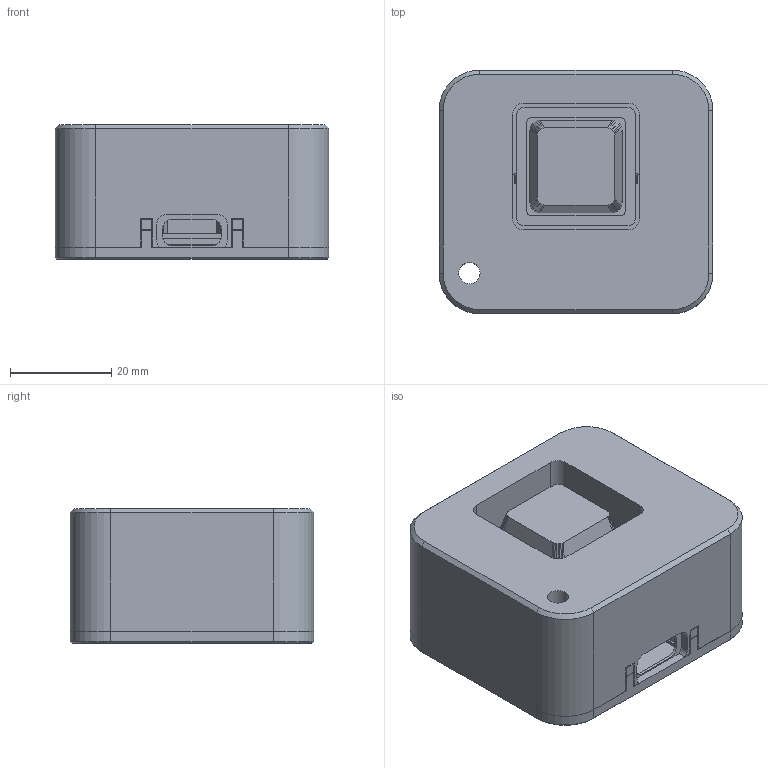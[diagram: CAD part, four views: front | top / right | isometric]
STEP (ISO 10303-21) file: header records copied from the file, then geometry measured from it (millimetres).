
FILE_DESCRIPTION(('Open CASCADE Model'),'2;1');
FILE_NAME('Open CASCADE Shape Model','2026-10-06T20:45:13',('Author'),( 'Open CASCADE'),'Open CASCADE STEP processor 7.9','Open CASCADE 7.9' ,'Unknown');
FILE_SCHEMA(('AUTOMOTIVE_DESIGN { 1 0 10303 214 1 1 1 1 }'));
Length unit declared in the file: millimetre
Products named in the file (9): AirGap_Paste_Pocket_Recess; 01_shell; 02_base; 03_keycap; 04_halo; 05_mx_plate; 07_xiao_wedge; 06_lightguide_left; 06_lightguide_right
Assembly tree (8 placements, depth 2):
  AirGap_Paste_Pocket_Recess
    01_shell
    02_base
    03_keycap
    04_halo
    05_mx_plate
    07_xiao_wedge
    06_lightguide_left
    06_lightguide_right
Bounding box: 54 x 48 x 26.6 mm (x, y, z)
Volume: 25639.7 mm3; surface area: 27572 mm2
Topology: 8 solids, 8 shells, 547 faces, 1468 edges, 962 vertices
Faces by surface type: plane 360, bspline 110, cylinder 67, cone 10
Full cylindrical faces by diameter (mm): 3.4 x6, 4.2 x2, 5.3 x1
Entity records: 35424 total; most frequent: CARTESIAN_POINT 7871, DIRECTION 4308, LINE 3013, VECTOR 3013, ORIENTED_EDGE 2936, PCURVE 2936, DEFINITIONAL_REPRESENTATION 2936, EDGE_CURVE 1468
